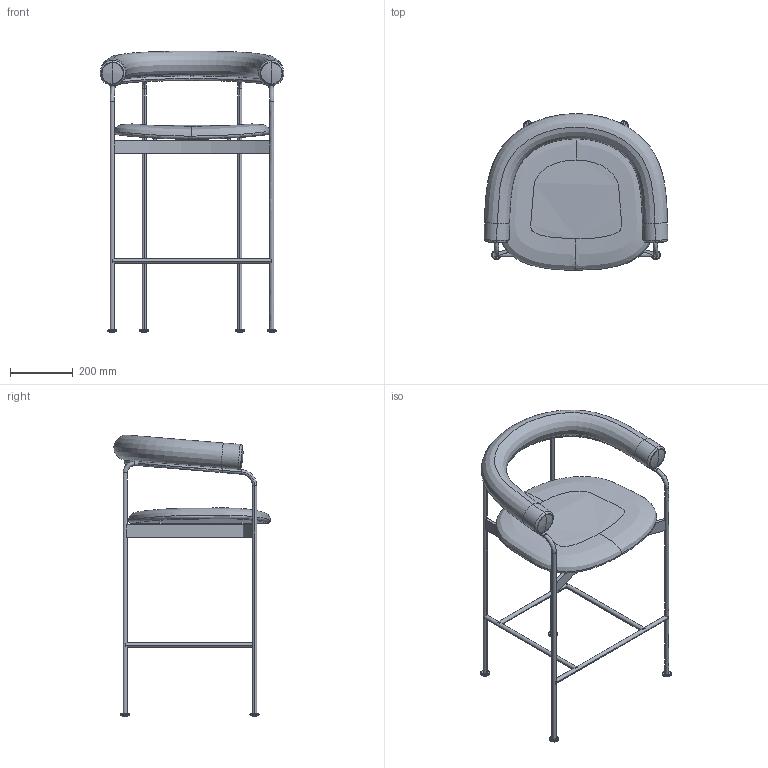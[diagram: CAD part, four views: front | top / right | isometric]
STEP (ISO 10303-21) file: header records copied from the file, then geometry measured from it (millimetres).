
FILE_DESCRIPTION(/* description */ (''),/* implementation_level */ '2;1');
FILE_NAME(/* name */ '2025.01.07 BAIA UPHOLSTERED_3D',/* time_stamp */ '2025-01-08T09:52:43+01:00',/* author */ (''),/* organization */ (''),/* preprocessor_version */ 'ST-DEVELOPER v16.5',/* originating_system */ 'Rhino 7.28',/* authorisation */ '');
FILE_SCHEMA (('CONFIG_CONTROL_DESIGN'));
Length unit declared in the file: millimetre
Products named in the file (1): Document
Bounding box: 583.68 x 496.86 x 894.91 mm (x, y, z)
Volume: 13312862.4 mm3; surface area: 1122852.8 mm2
Topology: 26 solids, 35 shells, 180 faces, 340 edges, 210 vertices
Faces by surface type: bspline 70, plane 58, cylinder 52
Entity records: 9550 total; most frequent: CARTESIAN_POINT 7254, ORIENTED_EDGE 642, EDGE_CURVE 336, VERTEX_POINT 210, ADVANCED_FACE 180, FACE_OUTER_BOUND 180, EDGE_LOOP 180, DIRECTION 114
